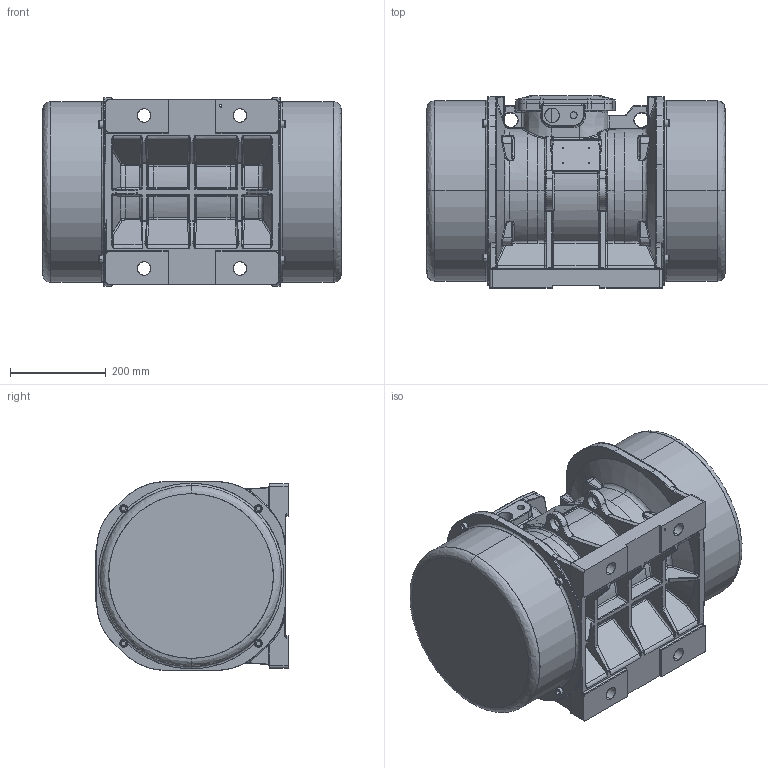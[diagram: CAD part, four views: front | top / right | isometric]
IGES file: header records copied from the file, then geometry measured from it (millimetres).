
Start section: SolidWorks IGES file using analytic representation for surfaces
Global section: file name: C:\Users\UT14\Desktop\DISEGNI_DI_INGOMBRO_RICCARDO\IGES\85-86_A0\(MVE6500-3-36_MVE900-3-36_MVE7200-15-18_MVE9000-15-18_MVE5200-12)-85A0_(MVE6500-3-36_MVE9000-3-36_MVE7200-15-18_MVE9000-15-18)-86A0.IGS; native system: SolidWorks 2016; preprocessor: SolidWorks 2016; author: UT14; date: 180608.143858; units: millimetre
Bounding box: 624 x 402 x 394 mm (x, y, z)
Surface area: 1469242.7 mm2 (no closed solid volume)
Topology: 0 solids, 0 shells, 1836 faces, 17566 edges, 17467 vertices
Faces by surface type: bspline 1080, revolution 756
